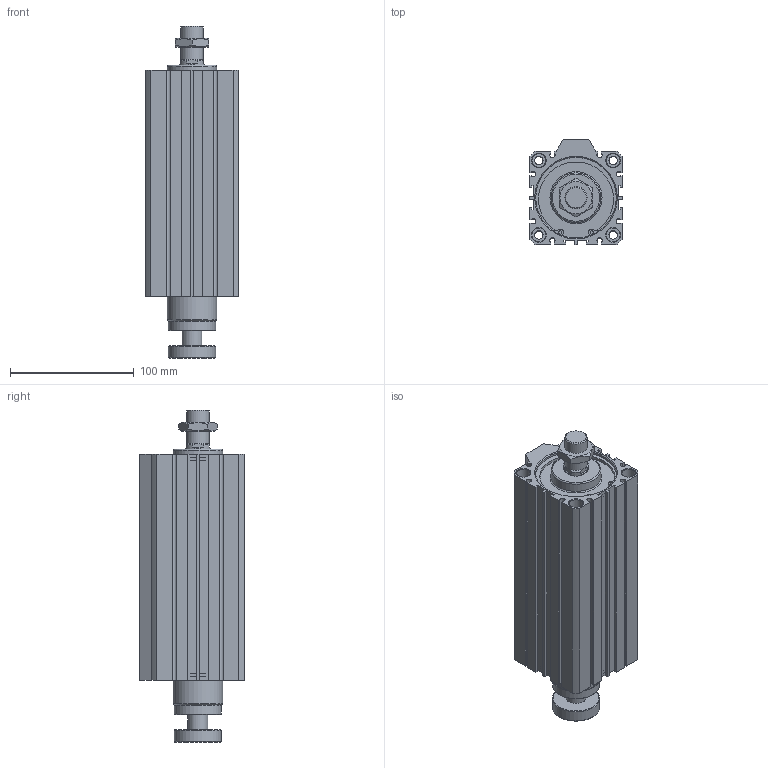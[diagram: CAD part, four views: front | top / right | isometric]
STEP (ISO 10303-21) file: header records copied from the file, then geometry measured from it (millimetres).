
FILE_DESCRIPTION((''),'2;1');
FILE_NAME('I:\3D電子目錄\氣缸\JDAR\JDAR-BS\JDAR63-BS\JDAR63x140-BS.stp','2007-05-05T14:40:53',('662F206'),(''),'Autodesk Inventor 11','Autodesk Inventor 11','');
FILE_SCHEMA(('AUTOMOTIVE_DESIGN { 1 0 10303 214 1 1 1 1 }'));
Length unit declared in the file: millimetre
Products named in the file (3): JDAR63-BS; R 形環 65
Assembly tree (3 placements, depth 2):
  JDAR63-BS
    JDAR63-BS
    R 形環 65  x2
Bounding box: 75 x 84.5 x 267.8 mm (x, y, z)
Volume: 1022502.4 mm3; surface area: 127392 mm2
Topology: 3 solids, 3 shells, 203 faces, 490 edges, 319 vertices
Faces by surface type: plane 118, cylinder 56, cone 25, bspline 2, torus 2
Full cylindrical faces by diameter (mm): 2.7 x4, 3 x2, 6.8 x4, 11 x8, 16 x1, 18 x2, 20 x1, 38 x2, 40 x2, 65 x4, 68 x2
Entity records: 5389 total; most frequent: CARTESIAN_POINT 1017, DIRECTION 902, ORIENTED_EDGE 798, EDGE_CURVE 399, AXIS2_PLACEMENT_3D 328, VERTEX_POINT 293, EDGE_LOOP 284, VECTOR 246
